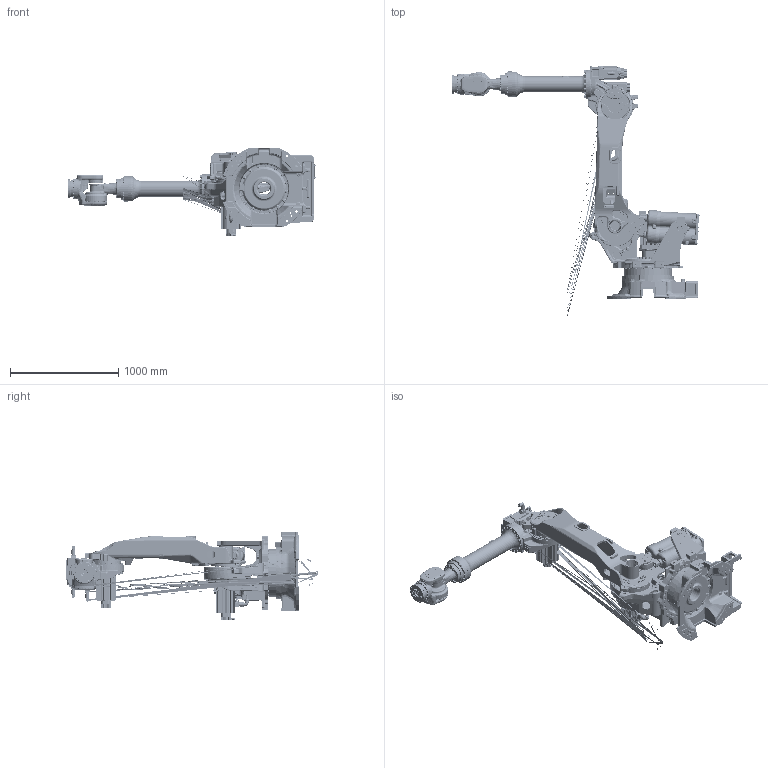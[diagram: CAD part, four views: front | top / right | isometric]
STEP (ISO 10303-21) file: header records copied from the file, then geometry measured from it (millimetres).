
FILE_DESCRIPTION (( 'STEP AP203' ), '1' );
FILE_NAME ('ER210-2700V4±¾ÌåV4.0.STEP', '2023-05-22T02:56:31', ( '' ), ( '' ), 'SwSTEP 2.0', 'SolidWorks 2021', '' );
FILE_SCHEMA (( 'CONFIG_CONTROL_DESIGN' ));
Products named in the file (10): 复件 小臂部分^ER210-2700V4本体V4.0; 复件 转座部分^ER210-2700V4本体V4.0; 复件 大臂部分^ER210-2700V4本体V4.0; 复件 手腕体6轴^ER210-2700V4本体V4.0; ER210-2700V4掛极V4.0; 复件 平衡缸部分1^ER210-2700V4本体V4.0; 复件 手腕体5轴^ER210-2700V4本体V4.0; 复件 末端法兰^ER210-2700V4本体V4.0; 复件 平衡缸部分2^ER210-2700V4本体V4.0; 复件 底座部分^ER210-2700V4本体V4.0
Assembly tree (9 placements, depth 2):
  ER210-2700V4掛极V4.0
    复件 底座部分^ER210-2700V4本体V4.0
    复件 转座部分^ER210-2700V4本体V4.0
    复件 平衡缸部分1^ER210-2700V4本体V4.0
    复件 平衡缸部分2^ER210-2700V4本体V4.0
    复件 大臂部分^ER210-2700V4本体V4.0
    复件 小臂部分^ER210-2700V4本体V4.0
    复件 手腕体5轴^ER210-2700V4本体V4.0
    复件 手腕体6轴^ER210-2700V4本体V4.0
    复件 末端法兰^ER210-2700V4本体V4.0
Bounding box: 2292.23 x 2334.95 x 822.2 mm (x, y, z)
Volume: 147467774 mm3; surface area: 15096569.3 mm2
Topology: 447 solids, 482 shells, 29175 faces, 70518 edges, 42036 vertices
Faces by surface type: cylinder 10484, plane 7660, torus 3683, cone 3274, bspline 3240, sphere 834
Full cylindrical faces by diameter (mm): 14.6 x1
Entity records: 1039078 total; most frequent: CARTESIAN_POINT 373357, DIRECTION 142567, ORIENTED_EDGE 137734, EDGE_CURVE 68867, AXIS2_PLACEMENT_3D 57475, VERTEX_POINT 41976, EDGE_LOOP 31755, CIRCLE 31500
